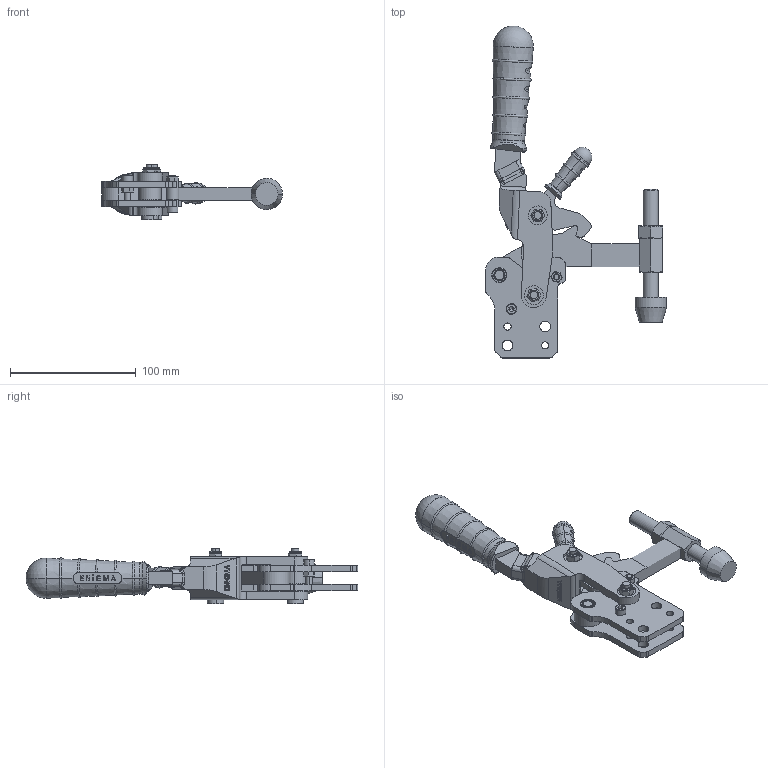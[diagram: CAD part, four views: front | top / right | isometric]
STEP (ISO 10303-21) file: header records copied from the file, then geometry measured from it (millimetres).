
FILE_DESCRIPTION (( 'STEP AP214' ), '1' );
FILE_NAME ('1563_D.STEP', '2020-07-22T15:10:22', ( '' ), ( '' ), 'SwSTEP 2.0', 'SolidWorks 2019', '' );
FILE_SCHEMA (( 'AUTOMOTIVE_DESIGN' ));
Length unit declared in the file: millimetre
Products named in the file (22): M6 fiberli Somun; 1533_cap5x10_on paralel burc; 1563_D_govde - Kopya; G39x6x8x30; 1563_kilit mandal; M12 Lama 琄 Somunu; C100 Tutamak; 1533_mafsal; Baský M12; 1563_D; socket head cap screw 4762_din_EN ISO 4762 M5 x 25 - 22N; Aynalama1563_D_govde - Kopya; M12 Somun; 1533_Cap8x20 Týrtýllý Pim; socket head cap screw 4762_din_EN ISO 4762 M5 x 20 - 20N; 1533_hareket kolu; C45 Tutamak; 1563_baský kolu; 1533_dovme mafsal; 1533_cap8x18_ara mesafe burcu; M5 Somun; Burc_1503_12x8x5
Assembly tree (32 placements, depth 2):
  1563_D
    1563_D_govde - Kopya
    1533_mafsal  x2
    1533_dovme mafsal
    G39x6x8x30  x2
    M6 fiberli Somun  x2
    1533_Cap8x20 Týrtýllý Pim  x2
    1533_cap8x18_ara mesafe burcu
    Burc_1503_12x8x5  x7
    1563_baský kolu
    M5 Somun  x2
    socket head cap screw 4762_din_EN ISO 4762 M5 x 20 - 20N
    1563_kilit mandal
    1533_hareket kolu
    C100 Tutamak
    C45 Tutamak
    socket head cap screw 4762_din_EN ISO 4762 M5 x 25 - 22N
    1533_cap5x10_on paralel burc
    M12 Lama 琄 Somunu
    Baský M12
    M12 Somun
    Aynalama1563_D_govde - Kopya
Bounding box: 143.99 x 264.17 x 44.5 mm (x, y, z)
Volume: 237107.5 mm3; surface area: 99754.4 mm2
Topology: 32 solids, 32 shells, 1973 faces, 5084 edges, 3305 vertices
Faces by surface type: plane 1107, bspline 329, cylinder 284, cone 173, torus 76, sphere 4
Entity records: 60776 total; most frequent: CARTESIAN_POINT 24487, ORIENTED_EDGE 6922, DIRECTION 5384, EDGE_CURVE 3461, VERTEX_POINT 2251, LINE 1884, VECTOR 1884, AXIS2_PLACEMENT_3D 1750
